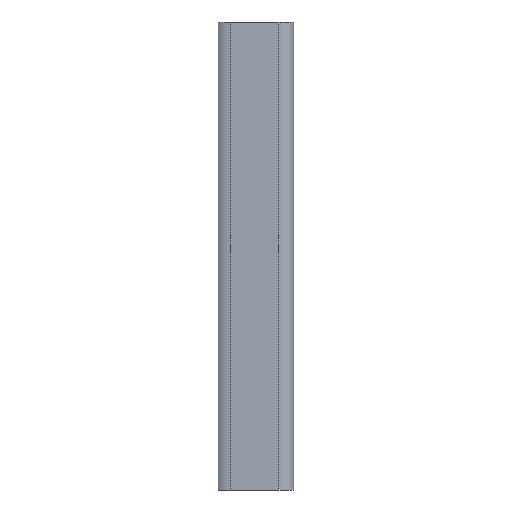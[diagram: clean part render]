
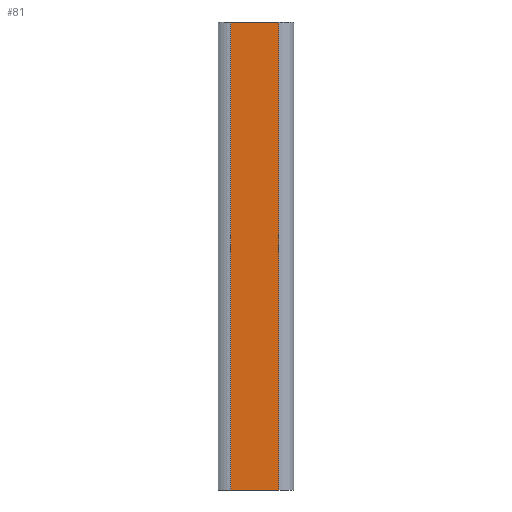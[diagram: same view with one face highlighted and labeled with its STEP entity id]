
A CAD part, left-side view. The second image highlights one B-rep face of the part: STEP entity #81.
In plain terms, the highlighted planar face has unit normal (-1, 0, 0).
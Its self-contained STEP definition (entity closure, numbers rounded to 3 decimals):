
#2 = LINE ( 'NONE', #532, #696 ) ;
#61 = VECTOR ( 'NONE', #687, 1000. ) ;
#81 = ADVANCED_FACE ( 'NONE', ( #106 ), #649, .T. ) ;
#106 = FACE_OUTER_BOUND ( 'NONE', #626, .T. ) ;
#180 = DIRECTION ( 'NONE',  ( 0., 0., 1. ) ) ;
#190 = ORIENTED_EDGE ( 'NONE', *, *, #372, .T. ) ;
#191 = DIRECTION ( 'NONE',  ( 0., 0., 1. ) ) ;
#213 = VECTOR ( 'NONE', #764, 1000. ) ;
#272 = LINE ( 'NONE', #453, #61 ) ;
#275 = CARTESIAN_POINT ( 'NONE',  ( -16., 0., -250. ) ) ;
#276 = CARTESIAN_POINT ( 'NONE',  ( -16., 51.734, 250. ) ) ;
#288 = VERTEX_POINT ( 'NONE', #276 ) ;
#296 = ORIENTED_EDGE ( 'NONE', *, *, #358, .T. ) ;
#315 = EDGE_CURVE ( 'NONE', #288, #394, #749, .T. ) ;
#358 = EDGE_CURVE ( 'NONE', #771, #394, #2, .T. ) ;
#372 = EDGE_CURVE ( 'NONE', #629, #771, #715, .T. ) ;
#387 = AXIS2_PLACEMENT_3D ( 'NONE', #470, #702, #180 ) ;
#394 = VERTEX_POINT ( 'NONE', #484 ) ;
#434 = CARTESIAN_POINT ( 'NONE',  ( -16., 51.734, -250. ) ) ;
#453 = CARTESIAN_POINT ( 'NONE',  ( -16., 51.734, -250. ) ) ;
#470 = CARTESIAN_POINT ( 'NONE',  ( -16., 51.734, -250. ) ) ;
#478 = ORIENTED_EDGE ( 'NONE', *, *, #315, .F. ) ;
#484 = CARTESIAN_POINT ( 'NONE',  ( -16., 0., 250. ) ) ;
#499 = VECTOR ( 'NONE', #580, 1000. ) ;
#532 = CARTESIAN_POINT ( 'NONE',  ( -16., 0., -250. ) ) ;
#573 = ORIENTED_EDGE ( 'NONE', *, *, #751, .F. ) ;
#580 = DIRECTION ( 'NONE',  ( 0., -1., 0. ) ) ;
#626 = EDGE_LOOP ( 'NONE', ( #478, #573, #190, #296 ) ) ;
#629 = VERTEX_POINT ( 'NONE', #748 ) ;
#643 = CARTESIAN_POINT ( 'NONE',  ( -16., 51.734, 250. ) ) ;
#649 = PLANE ( 'NONE',  #387 ) ;
#687 = DIRECTION ( 'NONE',  ( 0., 0., 1. ) ) ;
#696 = VECTOR ( 'NONE', #191, 1000. ) ;
#702 = DIRECTION ( 'NONE',  ( -1., 0., 0. ) ) ;
#715 = LINE ( 'NONE', #434, #213 ) ;
#748 = CARTESIAN_POINT ( 'NONE',  ( -16., 51.734, -250. ) ) ;
#749 = LINE ( 'NONE', #643, #499 ) ;
#751 = EDGE_CURVE ( 'NONE', #629, #288, #272, .T. ) ;
#764 = DIRECTION ( 'NONE',  ( 0., -1., 0. ) ) ;
#771 = VERTEX_POINT ( 'NONE', #275 ) ;
